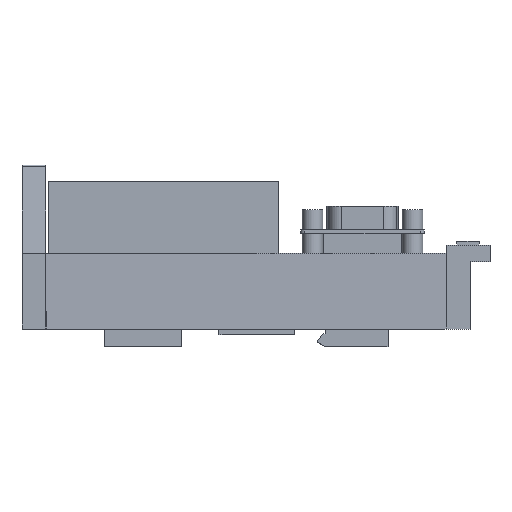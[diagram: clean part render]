
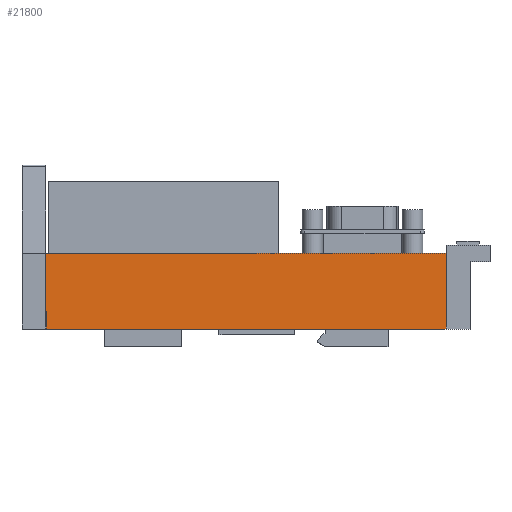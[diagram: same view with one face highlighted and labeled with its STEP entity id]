
A CAD part, top view. The second image highlights one B-rep face of the part: STEP entity #21800.
In plain terms, the highlighted planar face has unit normal (0, 0.017, 1) as drawn and (0, -1, 0.017) by its records, which use the part's own axes.
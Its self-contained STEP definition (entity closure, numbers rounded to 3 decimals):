
#600=CARTESIAN_POINT('',(-2.6,7.69,
-12.327));
#610=VERTEX_POINT('',#600);
#640=CARTESIAN_POINT('',(0.,7.69,-12.327));
#650=DIRECTION('',(1.,0.,0.));
#660=VECTOR('',#650,1.);
#670=LINE('',#640,#660);
#680=CARTESIAN_POINT('',(97.4,7.69,-12.327));
#690=VERTEX_POINT('',#680);
#700=EDGE_CURVE('',#610,#690,#670,.T.);
#1060=CARTESIAN_POINT('',(97.4,7.055,-48.727));
#1070=DIRECTION('',(0.,0.017,
1.));
#1080=VECTOR('',#1070,1.);
#1090=LINE('',#1060,#1080);
#1100=CARTESIAN_POINT('',(97.4,7.837,-3.905));
#1110=VERTEX_POINT('',#1100);
#1120=EDGE_CURVE('',#690,#1110,#1090,.T.);
#1390=CARTESIAN_POINT('',(-2.6,7.837,
-3.905));
#1400=VERTEX_POINT('',#1390);
#5330=CARTESIAN_POINT('',(-2.6,8.021,
6.653));
#5340=VERTEX_POINT('',#5330);
#5370=CARTESIAN_POINT('',(-2.6,7.905,0.));
#5380=DIRECTION('',(0.,-0.017,
-1.));
#5390=VECTOR('',#5380,1.);
#5400=LINE('',#5370,#5390);
#5410=EDGE_CURVE('',#5340,#1400,#5400,.T.);
#14470=CARTESIAN_POINT('',(-2.6,7.905,0.));
#14480=DIRECTION('',(0.,0.017,
1.));
#14490=VECTOR('',#14480,1.);
#14500=LINE('',#14470,#14490);
#14510=EDGE_CURVE('',#610,#1400,#14500,.T.);
#21480=CARTESIAN_POINT('',(97.4,8.021,6.653));
#21490=VERTEX_POINT('',#21480);
#21520=CARTESIAN_POINT('',(0.,8.021,6.653));
#21530=DIRECTION('',(1.,0.,0.));
#21540=VECTOR('',#21530,1.);
#21550=LINE('',#21520,#21540);
#21560=EDGE_CURVE('',#5340,#21490,#21550,.T.);
#21620=CARTESIAN_POINT('',(107.4,7.988,4.773
));
#21630=DIRECTION('',(0.,1.,
-0.017));
#21640=DIRECTION('',(0.,0.017,
1.));
#21650=AXIS2_PLACEMENT_3D('',#21620,#21630,#21640);
#21660=PLANE('',#21650);
#21670=ORIENTED_EDGE('',*,*,#21560,.F.);
#21680=CARTESIAN_POINT('',(97.4,7.905,0.));
#21690=DIRECTION('',(0.,0.017,
1.));
#21700=VECTOR('',#21690,1.);
#21710=LINE('',#21680,#21700);
#21720=EDGE_CURVE('',#1110,#21490,#21710,.T.);
#21730=ORIENTED_EDGE('',*,*,#21720,.T.);
#21740=ORIENTED_EDGE('',*,*,#1120,.T.);
#21750=ORIENTED_EDGE('',*,*,#700,.T.);
#21760=ORIENTED_EDGE('',*,*,#14510,.F.);
#21770=ORIENTED_EDGE('',*,*,#5410,.T.);
#21780=EDGE_LOOP('',(#21770,#21760,#21750,#21740,#21730,#21670));
#21790=FACE_OUTER_BOUND('',#21780,.T.);
#21800=ADVANCED_FACE('',(#21790),#21660,.F.);
